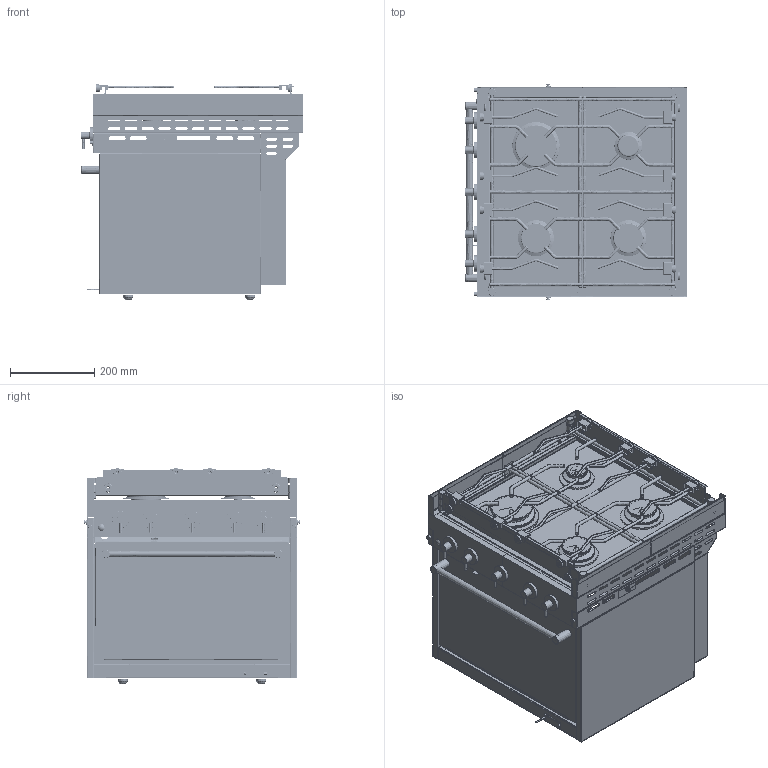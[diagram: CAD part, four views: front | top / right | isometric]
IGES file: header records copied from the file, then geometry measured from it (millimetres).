
Start section:  Alias DesignStudio for Windows version 12.0 IGES version 5.3
Global section: file name: C:\00000LAVORI_IN_CORSO\techimpex\top4\top 4.iges; native system: Alias DesignStudio for Windows V12.0; preprocessor: 12.0; author: admin; organization: Unknown; date: 20080718.111340; units: millimetre
Bounding box: 529.63 x 515.08 x 513.79 mm (x, y, z)
Surface area: 4948468 mm2 (no closed solid volume)
Topology: 0 solids, 0 shells, 2794 faces, 14983 edges, 14270 vertices
Faces by surface type: bspline 2794
